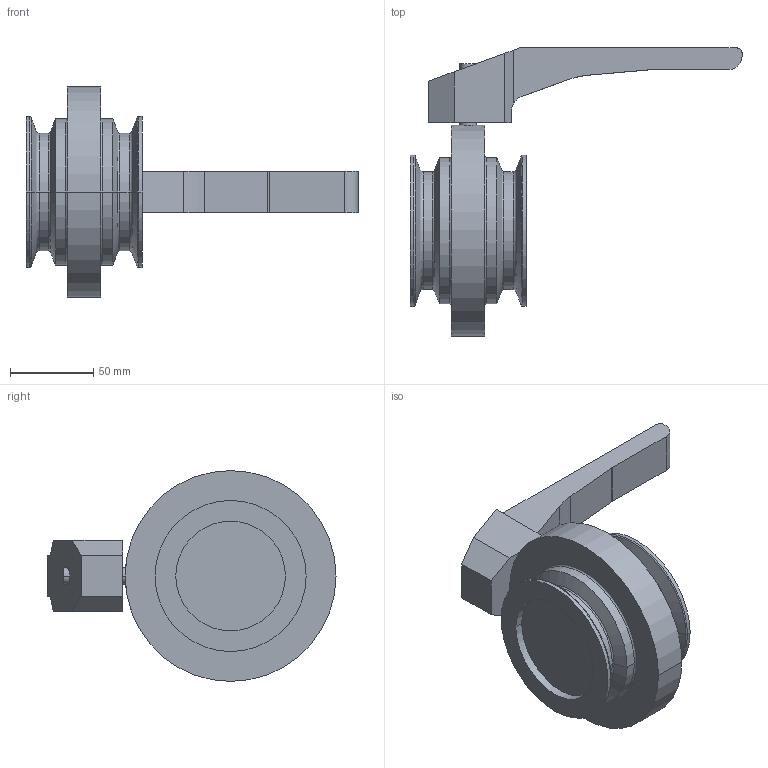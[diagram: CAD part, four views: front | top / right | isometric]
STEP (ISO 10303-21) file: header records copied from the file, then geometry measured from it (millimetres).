
FILE_DESCRIPTION(('OneSpaceDesigner STEP Export'),'2;1');
FILE_NAME('SV1-65-H-12CL.stp','2007-04-19T14:46:21',(''),(''),'OneSpace Designer STEP processor for AP214 (Solid Model)','OneSpace Modeling 15.00 06-Feb-2007 (C) CoCreate Software GmbH','');
FILE_SCHEMA(('AUTOMOTIVE_DESIGN { 1 0 10303 214 1 1 1 1 }'));
Length unit declared in the file: millimetre
Products named in the file (3): Handhebel-SV-40-100; SV1-65-H-12CL; SV1-65-H-12CL-vereint
Assembly tree (2 placements, depth 2):
  SV1-65-H-12CL-vereint
    SV1-65-H-12CL
    Handhebel-SV-40-100
Bounding box: 200 x 173.5 x 127 mm (x, y, z)
Volume: 605687.9 mm3; surface area: 75919.1 mm2
Topology: 2 solids, 2 shells, 76 faces, 167 edges, 100 vertices
Faces by surface type: cylinder 27, plane 25, torus 16, cone 8
Entity records: 2292 total; most frequent: CARTESIAN_POINT 692, ORIENTED_EDGE 334, DIRECTION 303, EDGE_CURVE 167, AXIS2_PLACEMENT_3D 113, VERTEX_POINT 100, EDGE_LOOP 81, VECTOR 77
